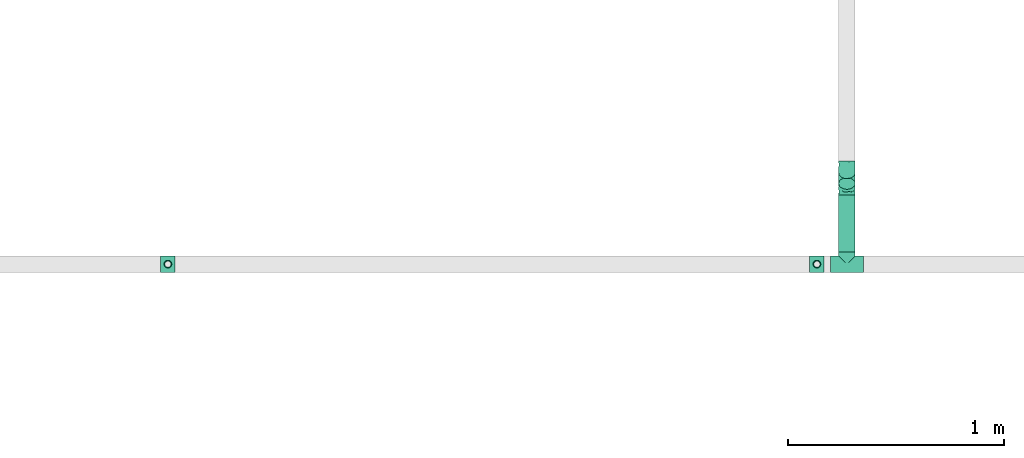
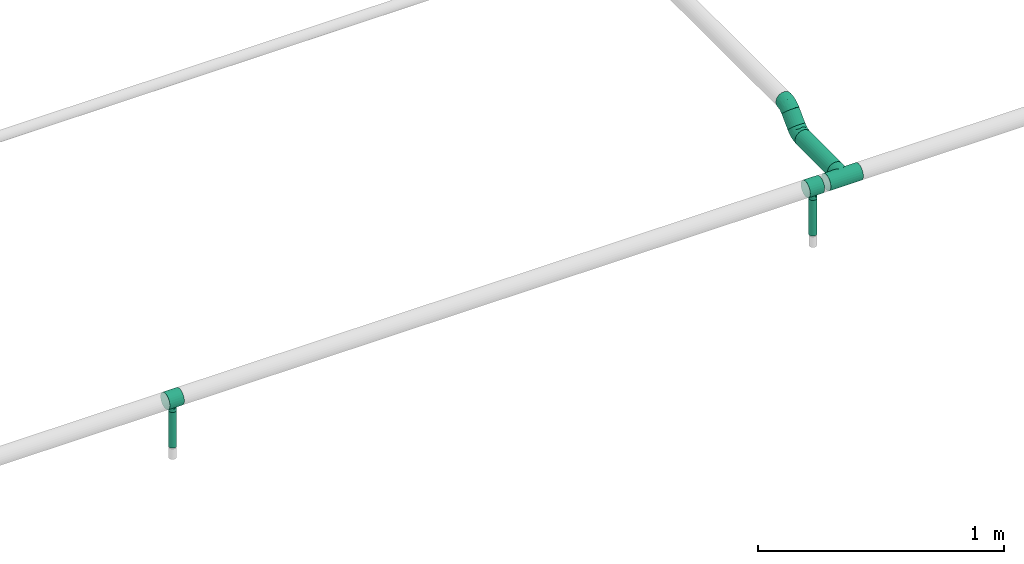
# One storey, part 12 of 45: 5 flow fittings, 4 flow segments.
"""IFC2X3 building model written with IfcOpenShell, lengths in millimetres."""

from ifc_helpers import new_model, entity, si_unit, converted_unit, derived_unit, direction, frame, origin_with_axes, origin_2d_with_axis, place, context, subcontext, project, spatial, hollow_circle, extrude, open_shell, surface_model, source, transform, mapped, type_object, element, save


model = new_model("IFC2X3")

# Units and contexts
model_context = context("Model", 3, precision=0.01, world=frame((0.0, 4.29681676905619e-09, 0.0)), true_north=direction((4.01073788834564e-13, 1.0)))
plan_context = context("Plan", 3, precision=0.01, world=frame((0.0, 4.29681676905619e-09, 0.0)), true_north=direction((4.01073788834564e-13, 1.0)))
body_context = subcontext(model_context, "Body", "Model", "MODEL_VIEW")
ifc_project = project(units=[converted_unit("PLANEANGLEUNIT", "DEGREE", entity("IfcPositiveLengthMeasure", 0.0174532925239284), si_unit("PLANEANGLEUNIT", "RADIAN"), dimensions=[0, 0, 0, 0, 0, 0, 0]), si_unit("AREAUNIT", "SQUARE_METRE"), si_unit("LENGTHUNIT", "METRE", prefix="MILLI"), si_unit("MASSUNIT", "GRAM", prefix="KILO"), si_unit("POWERUNIT", "WATT"), si_unit("PRESSUREUNIT", "PASCAL", prefix="KILO"), si_unit("FORCEUNIT", "NEWTON", prefix="KILO"), si_unit("ELECTRICVOLTAGEUNIT", "VOLT"), si_unit("ELECTRICCURRENTUNIT", "AMPERE"), si_unit("THERMODYNAMICTEMPERATUREUNIT", "DEGREE_CELSIUS"), si_unit("TIMEUNIT", "SECOND"), si_unit("VOLUMEUNIT", "CUBIC_METRE"), derived_unit("LINEARVELOCITYUNIT", [(si_unit("LENGTHUNIT", "METRE"), 1), (si_unit("TIMEUNIT", "SECOND"), -1)]), derived_unit("VOLUMETRICFLOWRATEUNIT", [(si_unit("VOLUMEUNIT", "CUBIC_METRE"), 1), (si_unit("TIMEUNIT", "SECOND"), -1)]), derived_unit("THERMALTRANSMITTANCEUNIT", [(si_unit("POWERUNIT", "WATT"), 1), (si_unit("THERMODYNAMICTEMPERATUREUNIT", "KELVIN"), -1), (si_unit("AREAUNIT", "SQUARE_METRE"), -1)]), derived_unit("SOUNDPRESSUREUNIT", [(si_unit("PRESSUREUNIT", "PASCAL"), 1)])], contexts=[model_context, plan_context])

# Site, building, storey
site_placement = place(None, frame((0.0, -4.29681676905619e-09, 0.0), z_axis=(0.0, 0.0, 1.0), x_axis=(1.0, 0.0, 0.0)))
site = spatial("IfcSite", under=ifc_project, at=site_placement, CompositionType="ELEMENT")
building_placement = place(site_placement, frame((0.0, 4.29681676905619e-09, 0.0), z_axis=(0.0, 0.0, 1.0), x_axis=(1.0, 0.0, 0.0)))
building = spatial("IfcBuilding", under=site, at=building_placement, Name="mc-building", CompositionType="ELEMENT")
storey_placement = place(building_placement, frame((0.0, 0.0, 210200.0), z_axis=(0.0, 0.0, 1.0), x_axis=(1.0, 0.0, 0.0)))
storey = spatial("IfcBuildingStorey", under=building, at=storey_placement, Name="Nivå F - 0,7 m", CompositionType="ELEMENT", Elevation=210200.0)

# Flow fittings
pipe_fitting_type_1 = type_object("IfcPipeFittingType", Name="magi_pipe_fe_tee_centric_90_001", PredefinedType="JUNCTION")
shared_shape_1 = source(origin_with_axes(), body_context, "Body", "SurfaceModel", [
    surface_model("IfcShellBasedSurfaceModel", [(-33.8, 9.86101, -36.80177), (-33.8, 0.0, -38.1), (-33.8, 36.80177, -9.86101), (-33.8, 19.05, -32.99557), (-33.8, 32.99557, -19.05), (-33.8, 26.94077, -26.94077), (-33.8, -38.1, 0.0), (-33.8, -19.05, -32.99557), (-33.8, -26.94077, -26.94077), (-33.8, -9.86101, -36.80177), (-33.8, -32.99557, -19.05), (-33.8, -36.80177, -9.86101), (-33.8, 38.1, 0.0), (-33.8, 32.99557, 19.05), (-33.8, 36.80177, 9.86101), (-33.8, -36.80177, 9.86101), (-33.8, 19.05, 32.99557), (-33.8, 26.94077, 26.94077), (-33.8, 9.86101, 36.80177), (-33.8, 0.0, 38.1), (-33.8, -26.94077, 26.94077), (-33.8, -32.99557, 19.05), (-33.8, -9.86101, 36.80177), (-33.8, -19.05, 32.99557), (33.8, 0.0, -38.1), (33.8, 9.86101, -36.80177), (33.8, 19.05, -32.99557), (33.8, 26.94077, -26.94077), (33.8, 32.99557, -19.05), (33.8, 36.80177, -9.86101), (33.8, -38.1, 0.0), (33.8, -9.86101, -36.80177), (33.8, -26.94077, -26.94077), (33.8, -19.05, -32.99557), (33.8, -32.99557, -19.05), (33.8, -36.80177, -9.86101), (33.8, 36.80177, 9.86101), (33.8, 32.99557, 19.05), (33.8, 19.05, 32.99557), (33.8, 0.0, 38.1), (33.8, 26.94077, 26.94077), (33.8, 9.86101, 36.80177), (33.8, -26.94077, 26.94077), (33.8, -32.99557, 19.05), (33.8, -36.80177, 9.86101), (33.8, -19.05, 32.99557), (33.8, -9.86101, 36.80177), (33.8, 38.1, 0.0), (33.8, -37.45089, 4.9305), (15.86072, -37.65053, 5.83504), (16.9, -38.1, 0.0), (12.92726, -36.51183, 10.88559), (2.96752, -34.27545, 16.63742), (33.8, -34.89867, 14.4555), (8.48894, -35.18611, 14.61328), (-8.4904, -35.18646, 14.61243), (-33.8, -34.89867, 14.4555), (-15.8612, -37.65073, 5.83372), (-33.8, -37.45089, 4.9305), (-16.9, -38.1, 0.0), (-12.9317, -36.51341, 10.88031), (-2.97221, -34.27585, 16.63658), (-33.8, -37.45089, -4.9305), (-15.8612, -37.65073, -5.83372), (15.86072, -37.65053, -5.83504), (33.8, -37.45089, -4.9305), (-12.9317, -36.51341, -10.88031), (-33.8, -34.89867, -14.4555), (-8.4904, -35.18646, -14.61243), (2.96752, -34.27545, -16.63742), (8.48894, -35.18611, -14.61328), (33.8, -34.89867, -14.4555), (12.92726, -36.51183, -10.88559), (-2.97221, -34.27585, -16.63658), (4.37404, -57.15, -16.32415), (-16.9, -57.15, 0.0), (0.0, -57.15, -16.9), (14.63583, -57.15, -8.45), (8.45, -57.15, -14.63583), (16.32415, -57.15, -4.37404), (11.9501, -57.15, -11.9501), (-11.9501, -57.15, -11.9501), (-8.45, -57.15, -14.63583), (-4.37404, -57.15, -16.32415), (-14.63583, -57.15, -8.45), (-16.32415, -57.15, -4.37404), (16.9, -57.15, 0.0), (8.45, -57.15, 14.63583), (16.32415, -57.15, 4.37404), (14.63583, -57.15, 8.45), (-8.45, -57.15, 14.63583), (11.9501, -57.15, 11.9501), (4.37404, -57.15, 16.32415), (-16.32415, -57.15, 4.37404), (-11.9501, -57.15, 11.9501), (-14.63583, -57.15, 8.45), (0.0, -57.15, 16.9), (-4.37404, -57.15, 16.32415), (-16.3806, -37.87537, 2.91686), (-5.7313, -34.73116, 15.62451), (-0.00235, -34.27565, 16.637), (5.72823, -34.73078, 15.62535), (16.38036, -37.87526, 2.91752), (16.38036, -37.87526, -2.91752), (5.72823, -34.73078, -15.62535), (-0.00235, -34.27565, -16.637), (-5.7313, -34.73116, -15.62451), (-16.3806, -37.87537, -2.91686)], [open_shell([[[0, 1, 2]], [[3, 0, 2]], [[2, 4, 5]], [[3, 2, 5]], [[6, 2, 1]], [[7, 8, 9]], [[8, 1, 9]], [[10, 11, 8]], [[6, 8, 11]], [[8, 6, 1]], [[6, 12, 2]], [[13, 14, 12]], [[15, 13, 6]], [[16, 13, 15]], [[17, 13, 16]], [[18, 16, 19]], [[20, 19, 21]], [[16, 15, 21]], [[22, 19, 23]], [[20, 23, 19]], [[21, 19, 16]], [[12, 6, 13]], [[24, 25, 26]], [[24, 26, 27]], [[27, 28, 29]], [[24, 27, 30]], [[30, 27, 29]], [[31, 32, 33]], [[31, 24, 32]], [[34, 30, 35]], [[30, 34, 32]], [[24, 30, 32]], [[29, 36, 30]], [[36, 37, 30]], [[30, 37, 38]], [[38, 39, 30]], [[38, 37, 40]], [[39, 38, 41]], [[30, 42, 43]], [[44, 30, 43]], [[45, 39, 46]], [[45, 42, 30]], [[30, 39, 45]], [[36, 29, 47]], [[48, 44, 49]], [[50, 30, 48]], [[44, 51, 49]], [[43, 42, 52]], [[50, 48, 49]], [[44, 53, 51]], [[52, 54, 43]], [[42, 20, 52]], [[54, 53, 43]], [[55, 21, 56]], [[57, 58, 59]], [[6, 59, 58]], [[57, 60, 15]], [[55, 61, 21]], [[51, 53, 54]], [[15, 60, 56]], [[21, 61, 20]], [[56, 60, 55]], [[61, 52, 20]], [[57, 15, 58]], [[42, 23, 20]], [[19, 46, 39]], [[22, 45, 46]], [[18, 39, 41]], [[37, 36, 14]], [[17, 38, 40]], [[13, 40, 37]], [[41, 38, 16]], [[12, 36, 47]], [[23, 45, 22]], [[22, 46, 19]], [[18, 19, 39]], [[41, 16, 18]], [[16, 38, 17]], [[13, 17, 40]], [[14, 13, 37]], [[36, 12, 14]], [[45, 23, 42]], [[12, 47, 29]], [[29, 28, 2]], [[59, 62, 63]], [[27, 4, 28]], [[9, 24, 31]], [[0, 26, 25]], [[64, 35, 65]], [[24, 1, 25]], [[31, 33, 7]], [[27, 26, 5]], [[66, 67, 68]], [[4, 2, 28]], [[12, 29, 2]], [[27, 5, 4]], [[3, 26, 0]], [[26, 3, 5]], [[0, 25, 1]], [[9, 1, 24]], [[31, 7, 9]], [[33, 8, 7]], [[32, 34, 69]], [[70, 34, 71]], [[70, 69, 34]], [[35, 72, 71]], [[32, 69, 8]], [[30, 50, 65]], [[64, 72, 35]], [[64, 65, 50]], [[72, 70, 71]], [[73, 68, 10]], [[10, 8, 73]], [[68, 67, 10]], [[73, 8, 69]], [[66, 63, 11]], [[63, 62, 11]], [[62, 59, 6]], [[11, 67, 66]], [[32, 8, 33]], [[74, 75, 76]], [[77, 74, 78]], [[77, 79, 74]], [[77, 78, 80]], [[75, 74, 79]], [[76, 81, 82]], [[82, 83, 76]], [[84, 75, 85]], [[81, 76, 84]], [[75, 84, 76]], [[79, 86, 75]], [[87, 86, 88]], [[87, 88, 89]], [[90, 75, 87]], [[87, 89, 91]], [[90, 87, 92]], [[93, 94, 95]], [[94, 93, 90]], [[90, 96, 97]], [[93, 75, 90]], [[92, 96, 90]], [[87, 75, 86]], [[93, 98, 75]], [[60, 95, 94]], [[93, 95, 57]], [[94, 90, 55]], [[98, 59, 75]], [[57, 95, 60]], [[97, 61, 99]], [[55, 60, 94]], [[96, 52, 100]], [[87, 101, 92]], [[99, 90, 97]], [[99, 55, 90]], [[93, 57, 98]], [[92, 52, 96]], [[49, 89, 88]], [[102, 86, 50]], [[102, 49, 88]], [[91, 89, 51]], [[96, 61, 97]], [[101, 52, 92]], [[87, 54, 101]], [[87, 91, 54]], [[54, 91, 51]], [[51, 89, 49]], [[86, 102, 88]], [[100, 61, 96]], [[79, 103, 86]], [[72, 77, 80]], [[79, 77, 64]], [[80, 78, 70]], [[103, 50, 86]], [[64, 77, 72]], [[74, 69, 104]], [[70, 72, 80]], [[76, 73, 105]], [[82, 106, 83]], [[107, 75, 59]], [[104, 78, 74]], [[104, 70, 78]], [[68, 82, 81]], [[79, 64, 103]], [[63, 84, 85]], [[107, 63, 85]], [[84, 66, 81]], [[76, 69, 74]], [[83, 106, 73]], [[73, 76, 83]], [[68, 106, 82]], [[68, 81, 66]], [[66, 84, 63]], [[75, 107, 85]], [[105, 69, 76]]])]),
])
for number, where, z_axis, x_axis, name in (
    (1, (341518.61043, 460120.00018, 2938.0), (0.0, 1.0, 0.0), (-1.0, 0.0, 0.0), "magi_pipe_fe_tee_centric_90_001"),
    (2, (338518.61043, 460120.00018, 2938.0), (0.0, 1.0, 0.0), (-1.0, 0.0, 0.0), "magi_pipe_fe_tee_centric_90_001"),
):
    element("IfcFlowFitting", number, at=place(storey_placement, frame(where, z_axis=z_axis, x_axis=x_axis)), inside=storey, type_object=pipe_fitting_type_1, Name=name, context=body_context, shape_type="MappedRepresentation", body=[
        mapped(shared_shape_1, transform((0.0, 0.0, 0.0), scale=1.0)),
    ])
shared_shape_2 = source(origin_with_axes(), body_context, "Body", "SurfaceModel", [
    surface_model("IfcShellBasedSurfaceModel", [(-76.2, 19.05, -32.99557), (-76.2, 9.86101, -36.80177), (-76.2, 0.0, -38.1), (-76.2, 26.94077, -26.94077), (-76.2, 36.80177, -9.86101), (-76.2, 32.99557, -19.05), (-76.2, -19.05, -32.99557), (-76.2, -26.94077, -26.94077), (-76.2, -9.86101, -36.80177), (-76.2, 38.1, 0.0), (-76.2, 36.80177, 9.86101), (-76.2, -38.1, 0.0), (-76.2, -36.80177, -9.86101), (-76.2, -32.99557, -19.05), (-76.2, 32.99557, 19.05), (-76.2, -36.80177, 9.86101), (-76.2, 19.05, 32.99557), (-76.2, 26.94077, 26.94077), (-76.2, 0.0, 38.1), (-76.2, 9.86101, 36.80177), (-76.2, -26.94077, 26.94077), (-76.2, -32.99557, 19.05), (-76.2, -9.86101, 36.80177), (-76.2, -19.05, 32.99557), (76.2, 0.0, -38.1), (76.2, -36.80177, 9.86101), (76.2, -38.1, 0.0), (76.2, 36.80177, -9.86101), (76.2, 9.86101, -36.80177), (76.2, 19.05, -32.99557), (76.2, 26.94077, -26.94077), (76.2, 32.99557, -19.05), (76.2, -9.86101, -36.80177), (76.2, -26.94077, -26.94077), (76.2, -19.05, -32.99557), (76.2, -32.99557, -19.05), (76.2, -36.80177, -9.86101), (76.2, 19.05, 32.99557), (76.2, 36.80177, 9.86101), (76.2, 32.99557, 19.05), (76.2, 0.0, 38.1), (76.2, 26.94077, 26.94077), (76.2, 9.86101, 36.80177), (76.2, -32.99557, 19.05), (76.2, -26.94077, 26.94077), (76.2, -19.05, 32.99557), (76.2, -9.86101, 36.80177), (76.2, 38.1, 0.0), (37.03376, -37.03376, 8.95045), (38.1, -38.1, 0.0), (76.2, -34.89867, 14.4555), (35.56052, -35.56052, 12.98504), (34.08727, -34.08727, 17.01964), (18.8305, -18.8305, 33.12132), (76.2, -22.99539, 29.96817), (29.78269, -29.78269, 23.76134), (76.2, -29.96817, 22.99539), (24.5894, -24.5894, 29.10277), (-35.56052, -35.56052, 12.98504), (-76.2, -34.89867, 14.4555), (-34.08727, -34.08727, 17.01964), (-37.03376, -37.03376, 8.95045), (-38.1, -38.1, 0.0), (-18.8305, -18.8305, 33.12132), (-76.2, -22.99539, 29.96817), (-29.78269, -29.78269, 23.76134), (-24.5894, -24.5894, 29.10277), (-76.2, -29.96817, 22.99539), (-12.71924, -12.71924, 35.91422), (6.40528, -6.40528, 37.55772), (12.71924, -12.71924, 35.91422), (0.0, 0.0, 38.1), (-6.40528, -6.40528, 37.55772), (6.40528, -6.40528, -37.55772), (0.0, 0.0, -38.1), (12.71924, -12.71924, -35.91422), (-24.5894, -24.5894, -29.10277), (-76.2, -22.99539, -29.96817), (-35.56052, -35.56052, -12.98504), (-37.03376, -37.03376, -8.95045), (-29.78269, -29.78269, -23.76134), (-76.2, -29.96817, -22.99539), (-6.40528, -6.40528, -37.55772), (-12.71924, -12.71924, -35.91422), (18.8305, -18.8305, -33.12132), (76.2, -22.99539, -29.96817), (24.5894, -24.5894, -29.10277), (-76.2, -34.89867, -14.4555), (-34.08727, -34.08727, -17.01964), (29.78269, -29.78269, -23.76134), (76.2, -29.96817, -22.99539), (37.03376, -37.03376, -8.95045), (35.56052, -35.56052, -12.98504), (34.08727, -34.08727, -17.01964), (76.2, -34.89867, -14.4555), (-18.8305, -18.8305, -33.12132), (0.0, -57.15, -38.1), (9.86101, -57.15, -36.80177), (19.05, -57.15, -32.99557), (26.94077, -57.15, -26.94077), (32.99557, -57.15, -19.05), (36.80177, -57.15, -9.86101), (0.0, -57.15, 38.1), (-26.94077, -57.15, -26.94077), (-9.86101, -57.15, -36.80177), (-19.05, -57.15, -32.99557), (-36.80177, -57.15, -9.86101), (-32.99557, -57.15, -19.05), (-32.99557, -57.15, 19.05), (-36.80177, -57.15, 9.86101), (-38.1, -57.15, 0.0), (19.05, -57.15, 32.99557), (36.80177, -57.15, 9.86101), (32.99557, -57.15, 19.05), (26.94077, -57.15, 26.94077), (9.86101, -57.15, 36.80177), (-26.94077, -57.15, 26.94077), (-19.05, -57.15, 32.99557), (-9.86101, -57.15, 36.80177), (38.1, -57.15, 0.0)], [open_shell([[[0, 1, 2]], [[3, 0, 2]], [[4, 5, 3]], [[6, 7, 8]], [[9, 4, 10]], [[11, 3, 2]], [[4, 3, 11]], [[11, 8, 7]], [[12, 11, 13]], [[7, 13, 11]], [[11, 2, 8]], [[11, 10, 4]], [[14, 10, 11]], [[14, 11, 15]], [[15, 16, 14]], [[17, 14, 16]], [[18, 19, 16]], [[20, 18, 21]], [[15, 21, 18]], [[22, 18, 23]], [[20, 23, 18]], [[18, 16, 15]], [[24, 25, 26]], [[27, 28, 29]], [[30, 31, 27]], [[30, 27, 29]], [[28, 25, 24]], [[32, 33, 34]], [[32, 24, 33]], [[35, 26, 36]], [[26, 35, 33]], [[24, 26, 33]], [[28, 27, 37]], [[27, 38, 37]], [[37, 38, 39]], [[37, 40, 28]], [[37, 39, 41]], [[40, 37, 42]], [[43, 40, 44]], [[25, 28, 43]], [[45, 40, 46]], [[40, 45, 44]], [[40, 43, 28]], [[38, 27, 47]], [[26, 25, 48]], [[48, 49, 26]], [[25, 50, 51]], [[50, 43, 52]], [[45, 53, 54]], [[44, 55, 56]], [[55, 44, 57]], [[43, 55, 52]], [[57, 44, 54]], [[15, 58, 59]], [[60, 59, 58]], [[61, 11, 62]], [[11, 61, 15]], [[15, 61, 58]], [[63, 23, 64]], [[65, 66, 20]], [[65, 67, 21]], [[20, 66, 64]], [[63, 68, 23]], [[65, 21, 60]], [[50, 52, 51]], [[54, 53, 57]], [[46, 40, 69]], [[25, 51, 48]], [[53, 45, 70]], [[69, 70, 46]], [[65, 20, 67]], [[69, 40, 71]], [[70, 45, 46]], [[14, 41, 39]], [[10, 39, 38]], [[16, 42, 37]], [[17, 37, 41]], [[42, 71, 40]], [[9, 38, 47]], [[72, 71, 18]], [[60, 21, 59]], [[72, 22, 68]], [[22, 72, 18]], [[22, 23, 68]], [[71, 19, 18]], [[63, 64, 66]], [[42, 19, 71]], [[16, 19, 42]], [[16, 37, 17]], [[14, 17, 41]], [[10, 14, 39]], [[38, 9, 10]], [[55, 43, 56]], [[3, 31, 30]], [[4, 27, 31]], [[9, 47, 27]], [[0, 30, 29]], [[24, 32, 73]], [[28, 24, 74]], [[73, 32, 75]], [[76, 7, 77]], [[29, 28, 1]], [[32, 34, 75]], [[24, 73, 74]], [[4, 31, 5]], [[0, 3, 30]], [[5, 31, 3]], [[9, 27, 4]], [[12, 78, 79]], [[80, 13, 81]], [[82, 83, 8]], [[74, 82, 2]], [[74, 2, 1]], [[2, 82, 8]], [[83, 6, 8]], [[1, 0, 29]], [[74, 1, 28]], [[84, 85, 86]], [[85, 33, 86]], [[87, 88, 78]], [[84, 34, 85]], [[89, 86, 33]], [[90, 35, 89]], [[34, 84, 75]], [[36, 91, 92]], [[91, 36, 26]], [[93, 94, 92]], [[49, 91, 26]], [[35, 93, 89]], [[76, 77, 95]], [[36, 92, 94]], [[77, 6, 95]], [[7, 76, 80]], [[7, 80, 81]], [[93, 35, 94]], [[95, 6, 83]], [[79, 62, 11]], [[12, 87, 78]], [[88, 87, 13]], [[12, 79, 11]], [[88, 13, 80]], [[89, 33, 90]], [[96, 97, 98]], [[96, 98, 99]], [[99, 100, 101]], [[99, 101, 96]], [[102, 103, 96]], [[104, 103, 105]], [[104, 96, 103]], [[103, 106, 107]], [[103, 108, 106]], [[106, 109, 110]], [[111, 96, 101]], [[112, 113, 101]], [[101, 113, 111]], [[111, 102, 96]], [[111, 113, 114]], [[102, 111, 115]], [[108, 102, 116]], [[109, 106, 108]], [[117, 102, 118]], [[102, 117, 116]], [[102, 108, 103]], [[112, 101, 119]], [[61, 62, 110]], [[109, 61, 110]], [[116, 117, 66]], [[65, 108, 116]], [[60, 109, 108]], [[68, 117, 118]], [[60, 61, 109]], [[66, 65, 116]], [[60, 108, 65]], [[68, 63, 117]], [[102, 71, 72]], [[68, 118, 72]], [[66, 117, 63]], [[72, 118, 102]], [[69, 102, 115]], [[111, 70, 115]], [[113, 112, 52]], [[55, 114, 113]], [[57, 111, 114]], [[48, 112, 119]], [[57, 53, 111]], [[70, 69, 115]], [[53, 70, 111]], [[49, 48, 119]], [[52, 55, 113]], [[48, 52, 112]], [[57, 114, 55]], [[102, 69, 71]], [[49, 119, 91]], [[101, 91, 119]], [[89, 100, 99]], [[99, 98, 86]], [[93, 101, 100]], [[75, 98, 97]], [[93, 91, 101]], [[86, 89, 99]], [[93, 100, 89]], [[75, 84, 98]], [[96, 74, 73]], [[75, 97, 73]], [[86, 98, 84]], [[73, 97, 96]], [[82, 96, 104]], [[105, 83, 104]], [[107, 106, 88]], [[80, 103, 107]], [[76, 105, 103]], [[79, 106, 110]], [[76, 95, 105]], [[83, 82, 104]], [[95, 83, 105]], [[62, 79, 110]], [[88, 80, 107]], [[79, 88, 106]], [[76, 103, 80]], [[96, 82, 74]]])]),
])
flow_fitting_placement = place(storey_placement, frame((341657.5, 460120.00018, 2938.0), z_axis=(0.0, 0.0, 1.0), x_axis=(-1.0, 0.0, 0.0)))
element("IfcFlowFitting", 3, at=flow_fitting_placement, inside=storey, type_object=pipe_fitting_type_1, Name="magi_pipe_fe_tee_centric_90_001", context=body_context, shape_type="MappedRepresentation", body=[
    mapped(shared_shape_2, transform((0.0, 0.0, 0.0), scale=1.0)),
])
pipe_fitting_type_2 = type_object("IfcPipeFittingType", Name="magi_pipe_fe_elbow_short_001", PredefinedType="BEND")
shared_shape_3 = source(origin_with_axes(), body_context, "Body", "SurfaceModel", [
    surface_model("IfcShellBasedSurfaceModel", [(-31.56307, 19.05, -32.99557), (-31.56307, 9.86101, -36.80177), (-31.56307, 0.0, -38.1), (-31.56307, 26.94077, -26.94077), (-31.56307, 36.80177, -9.86101), (-31.56307, 32.99557, -19.05), (-31.56307, -36.80177, 9.86101), (-31.56307, -9.86101, -36.80177), (-31.56307, -26.94077, -26.94077), (-31.56307, -32.99557, -19.05), (-31.56307, -19.05, -32.99557), (-31.56307, -36.80177, -9.86101), (-31.56307, -38.1, 0.0), (-31.56307, 36.80177, 9.86101), (-31.56307, 26.94077, 26.94077), (-31.56307, 32.99557, 19.05), (-31.56307, 9.86101, 36.80177), (-31.56307, 19.05, 32.99557), (-31.56307, -19.05, 32.99557), (-31.56307, 0.0, 38.1), (-31.56307, -32.99557, 19.05), (-31.56307, -26.94077, 26.94077), (-31.56307, -9.86101, 36.80177), (-31.56307, 38.1, 0.0), (15.34568, 29.29125, -36.80177), (29.29125, 15.34568, -36.80177), (22.31846, 22.31846, -38.1), (3.26846, 41.36846, -26.94077), (8.84808, 35.78885, -32.99557), (-1.01293, 45.64985, -19.05), (-3.70432, 48.34125, -9.86101), (41.36846, 3.26846, -26.94077), (48.34125, -3.70432, 9.86101), (48.34125, -3.70432, -9.86101), (35.78885, 8.84808, -32.99557), (45.64985, -1.01293, 19.05), (45.64985, -1.01293, -19.05), (49.25923, -4.62231, 0.0), (22.31846, 22.31846, 38.1), (15.34568, 29.29125, 36.80177), (-4.62231, 49.25923, 0.0), (-3.70432, 48.34125, 9.86101), (-1.01293, 45.64985, 19.05), (3.26846, 41.36846, 26.94077), (8.84808, 35.78885, 32.99557), (35.78885, 8.84808, 32.99557), (41.36846, 3.26846, 26.94077), (29.29125, 15.34568, 36.80177), (9.70384, -23.42713, 21.23198), (-8.42903, -21.53324, 29.39945), (-12.30295, -29.13928, 22.30902), (-12.72994, -35.62057, 0.0), (-1.98006, -34.20532, 0.0), (-8.1322, -35.10083, 6.50594), (29.30408, -11.90509, 22.30902), (-15.09665, -13.97095, 34.82144), (3.91202, -9.44444, 34.34139), (1.1309, 22.90491, 35.56093), (6.8876, 18.03483, 37.54584), (-11.37114, -3.66836, 37.59524), (-3.62383, 8.74869, 37.96612), (-19.08985, 5.27957, 37.86879), (-10.82238, 26.12754, 31.10505), (-16.802, 31.95247, 24.04366), (20.5539, 0.79599, 34.82144), (-14.63922, 15.85445, 35.61813), (14.70349, -24.93596, 15.0155), (-6.83146, -32.96227, 13.23115), (11.82908, -28.55793, 8.28106), (-15.69549, 37.89226, 15.65312), (30.57037, -19.0697, 6.50594), (34.18897, -16.18612, 0.0), (-15.26074, 40.82522, 8.00526), (28.13842, -18.47728, 13.23115), (10.63454, 5.44669, 37.59524), (21.18653, -9.26608, 29.39945), (-16.98283, 41.00019, 0.0), (6.39501, -15.43892, 30.38264), (11.80343, -28.49601, 0.0), (25.58693, -22.7867, 0.0), (-11.37114, -3.66836, -37.59524), (-8.1322, -35.10083, -6.50594), (11.82908, -28.55793, -8.28105), (10.63454, 5.44669, -37.59524), (-16.99589, 15.39655, -35.56093), (-17.62282, 7.88229, -37.54584), (-10.713, 34.47461, -24.04366), (21.18653, -9.26608, -29.39945), (-15.69549, 37.89226, -15.65312), (28.13842, -18.47728, -13.23115), (-18.07682, 39.65877, -8.00526), (-0.8593, 21.56228, -35.61813), (-6.83146, -32.96227, -13.23115), (-10.82238, 26.12754, -31.10505), (-12.30295, -29.13928, -22.30902), (-8.42903, -21.53324, -29.39945), (6.39501, -15.43892, -30.38263), (9.70384, -23.42713, -21.23198), (-15.09665, -13.97095, -34.82144), (20.5539, 0.79599, -34.82144), (3.91202, -9.44444, -34.34139), (30.57037, -19.0697, -6.50594), (9.76534, 17.23178, -37.86879), (7.23544, -28.02932, -15.0155), (29.30408, -11.90509, -22.30902), (-3.62383, 8.74869, -37.96612)], [open_shell([[[0, 1, 2]], [[3, 0, 2]], [[4, 5, 3]], [[6, 3, 2]], [[6, 2, 7]], [[8, 9, 10]], [[10, 9, 6]], [[11, 12, 9]], [[9, 12, 6]], [[10, 6, 7]], [[3, 6, 4]], [[13, 4, 14]], [[15, 13, 14]], [[16, 17, 14]], [[18, 14, 4]], [[16, 14, 19]], [[20, 21, 6]], [[6, 21, 4]], [[22, 19, 18]], [[18, 4, 21]], [[14, 18, 19]], [[23, 4, 13]], [[24, 25, 26]], [[27, 24, 28]], [[27, 29, 30]], [[24, 27, 25]], [[30, 25, 27]], [[31, 32, 33]], [[31, 34, 35]], [[31, 33, 36]], [[37, 33, 32]], [[38, 34, 25]], [[25, 30, 39]], [[40, 41, 42]], [[42, 43, 30]], [[43, 44, 39]], [[39, 30, 43]], [[39, 38, 25]], [[35, 45, 46]], [[32, 31, 35]], [[45, 38, 47]], [[38, 45, 35]], [[38, 35, 34]], [[30, 40, 42]], [[48, 49, 50]], [[51, 52, 53]], [[18, 21, 49]], [[35, 46, 54]], [[55, 49, 56]], [[50, 49, 21]], [[39, 57, 58]], [[22, 18, 55]], [[59, 60, 61]], [[19, 22, 59]], [[14, 62, 63]], [[45, 47, 64]], [[61, 16, 19]], [[17, 65, 62]], [[6, 51, 53]], [[44, 43, 62]], [[66, 67, 68]], [[62, 14, 17]], [[21, 20, 50]], [[15, 63, 69]], [[13, 15, 69]], [[32, 70, 71]], [[72, 23, 13]], [[73, 66, 68]], [[67, 53, 68]], [[17, 16, 65]], [[38, 58, 74]], [[46, 45, 75]], [[42, 41, 69]], [[74, 47, 38]], [[48, 50, 67]], [[46, 75, 54]], [[60, 58, 57]], [[75, 45, 64]], [[20, 67, 50]], [[70, 32, 73]], [[48, 54, 75]], [[61, 65, 16]], [[48, 66, 54]], [[13, 69, 72]], [[20, 6, 67]], [[76, 72, 40]], [[49, 77, 56]], [[41, 72, 69]], [[56, 74, 59]], [[42, 69, 63]], [[56, 64, 74]], [[42, 63, 43]], [[60, 59, 74]], [[39, 44, 57]], [[57, 62, 65]], [[55, 59, 22]], [[15, 14, 63]], [[73, 32, 35]], [[73, 35, 54]], [[77, 48, 75]], [[43, 63, 62]], [[62, 57, 44]], [[60, 57, 65]], [[49, 55, 18]], [[59, 55, 56]], [[74, 64, 47]], [[75, 64, 56]], [[6, 12, 51]], [[68, 52, 78]], [[6, 53, 67]], [[52, 68, 53]], [[70, 68, 79]], [[71, 70, 79]], [[71, 37, 32]], [[68, 70, 73]], [[74, 58, 60]], [[38, 39, 58]], [[59, 61, 19]], [[65, 61, 60]], [[48, 77, 49]], [[75, 56, 77]], [[40, 72, 41]], [[72, 76, 23]], [[54, 66, 73]], [[67, 66, 48]], [[79, 68, 78]], [[7, 2, 80]], [[52, 81, 82]], [[26, 25, 83]], [[84, 85, 1]], [[5, 86, 3]], [[34, 31, 87]], [[88, 86, 5]], [[36, 33, 89]], [[4, 90, 88]], [[28, 24, 91]], [[11, 81, 51]], [[0, 84, 1]], [[81, 11, 92]], [[27, 93, 86]], [[92, 9, 94]], [[94, 8, 95]], [[8, 10, 95]], [[96, 97, 95]], [[11, 9, 92]], [[8, 94, 9]], [[98, 10, 7]], [[99, 83, 25]], [[30, 29, 88]], [[100, 98, 80]], [[23, 76, 90]], [[97, 94, 95]], [[40, 30, 90]], [[100, 80, 83]], [[27, 28, 93]], [[88, 5, 4]], [[29, 86, 88]], [[98, 95, 10]], [[91, 93, 28]], [[85, 80, 2]], [[93, 91, 84]], [[3, 93, 0]], [[33, 71, 101]], [[102, 24, 26]], [[99, 25, 34]], [[103, 89, 82]], [[31, 104, 87]], [[100, 99, 87]], [[31, 36, 104]], [[105, 102, 83]], [[104, 97, 87]], [[105, 83, 80]], [[101, 71, 79]], [[102, 91, 24]], [[105, 85, 84]], [[81, 92, 82]], [[97, 103, 94]], [[87, 96, 100]], [[36, 89, 104]], [[30, 88, 90]], [[97, 104, 89]], [[29, 27, 86]], [[3, 86, 93]], [[93, 84, 0]], [[105, 84, 91]], [[80, 98, 7]], [[95, 98, 100]], [[87, 99, 34]], [[83, 99, 100]], [[51, 81, 52]], [[51, 12, 11]], [[103, 82, 92]], [[101, 82, 89]], [[82, 79, 78]], [[33, 37, 71]], [[82, 101, 79]], [[33, 101, 89]], [[80, 85, 105]], [[2, 1, 85]], [[83, 102, 26]], [[91, 102, 105]], [[97, 96, 87]], [[95, 100, 96]], [[23, 90, 4]], [[90, 76, 40]], [[94, 103, 92]], [[89, 103, 97]], [[52, 82, 78]]])]),
])
for number, where, z_axis, x_axis, name in (
    (4, (341657.5, 460564.47065, 3031.91450000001), (1.0, 0.0, 0.0), (0.0, -1.0, 0.0), "magi_pipe_fe_elbow_short_001"),
    (5, (341657.5, 460470.55615, 2938.0), (-1.0, 0.0, 0.0), (0.0, -0.707106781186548, -0.707106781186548), "magi_pipe_fe_elbow_short_001"),
):
    element("IfcFlowFitting", number, at=place(storey_placement, frame(where, z_axis=z_axis, x_axis=x_axis)), inside=storey, type_object=pipe_fitting_type_2, Name=name, context=body_context, shape_type="MappedRepresentation", body=[
        mapped(shared_shape_3, transform((0.0, 0.0, 0.0), scale=1.0)),
    ])

# Flow segments
pipe_segment_type = type_object("IfcPipeSegmentType", Name="Stålrør normaltykke", PredefinedType="RIGIDSEGMENT")
shared_shape_4 = source(origin_with_axes(), body_context, "Body", "SweptSolid", [
    extrude(hollow_circle(Radius=16.9, WallThickness=2.0, at=origin_2d_with_axis()), frame((0.0, 0.0, 0.0), z_axis=(1.0, 0.0, 0.0), x_axis=(0.0, 1.0, 0.0)), (0.0, 0.0, 1.0), 176.9),
])
for number, where, z_axis, x_axis in (
    (6, (338518.61043, 460120.00018, 2703.95199999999), (1.0, 0.0, 0.0), (0.0, 0.0, 1.0)),
    (7, (341518.61043, 460120.00018, 2703.95199999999), (1.0, 0.0, 0.0), (0.0, 0.0, 1.0)),
):
    element("IfcFlowSegment", number, at=place(storey_placement, frame(where, z_axis=z_axis, x_axis=x_axis)), inside=storey, type_object=pipe_segment_type, Name="Stålrør normaltykke", context=body_context, shape_type="MappedRepresentation", body=[
        mapped(shared_shape_4, transform((0.0, 0.0, 0.0), scale=1.0)),
    ])
shared_shape_5 = source(origin_with_axes(), body_context, "Body", "SweptSolid", [
    extrude(hollow_circle(Radius=38.0, WallThickness=2.0, at=origin_2d_with_axis()), frame((0.0, 0.0, 0.0), z_axis=(1.0, 0.0, 0.0), x_axis=(0.0, 1.0, 0.0)), (0.0, 0.0, 1.0), 69.7),
])
flow_segment_1_placement = place(storey_placement, frame((341657.5, 460542.15219, 3009.59604), z_axis=(0.0, -0.707106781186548, 0.707106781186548), x_axis=(0.0, -0.707106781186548, -0.707106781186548)))
element("IfcFlowSegment", 8, at=flow_segment_1_placement, inside=storey, type_object=pipe_segment_type, Name="Stålrør normaltykke", context=body_context, shape_type="MappedRepresentation", body=[
    mapped(shared_shape_5, transform((0.0, 0.0, 0.0), scale=1.0)),
])
shared_shape_6 = source(origin_with_axes(), body_context, "Body", "SweptSolid", [
    extrude(hollow_circle(Radius=38.0, WallThickness=2.0, at=origin_2d_with_axis()), frame((0.0, 0.0, 0.0), z_axis=(1.0, 0.0, 0.0), x_axis=(0.0, 1.0, 0.0)), (0.0, 0.0, 1.0), 261.8),
])
flow_segment_2_placement = place(storey_placement, frame((341657.5, 460438.99307, 2938.0), z_axis=(0.0, 0.0, 1.0), x_axis=(0.0, -1.0, 0.0)))
element("IfcFlowSegment", 9, at=flow_segment_2_placement, inside=storey, type_object=pipe_segment_type, Name="Stålrør normaltykke", context=body_context, shape_type="MappedRepresentation", body=[
    mapped(shared_shape_6, transform((0.0, 0.0, 0.0), scale=1.0)),
])

save(model, "model.ifc")
